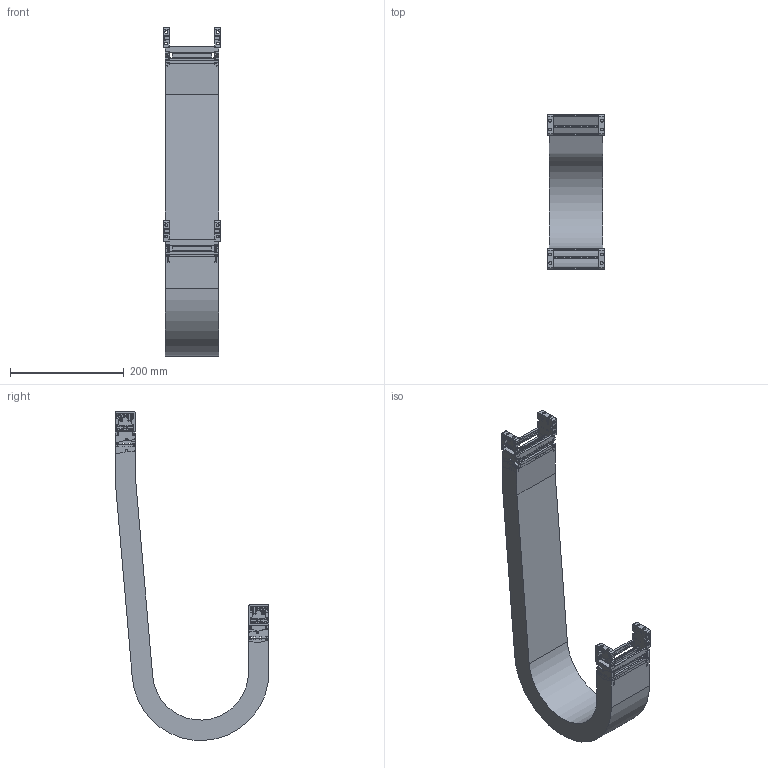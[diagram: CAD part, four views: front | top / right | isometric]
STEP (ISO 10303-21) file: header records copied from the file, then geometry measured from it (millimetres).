
FILE_DESCRIPTION((''),'2;1');
FILE_NAME('KST-25080-100_ASM','2017-12-05T',('KUNI004K'),(''),'PRO/ENGINEER BY PARAMETRIC TECHNOLOGY CORPORATION, 2015200','PRO/ENGINEER BY PARAMETRIC TECHNOLOGY CORPORATION, 2015200','');
FILE_SCHEMA(('AUTOMOTIVE_DESIGN { 1 0 10303 214 1 1 1 1 }'));
Length unit declared in the file: millimetre
Products named in the file (13): 25FBR; 25FBL; 25080C; KST25FBR_W080_ASM; 25100R; 25100L; 25080H; KST25080-100_1_ASM; KST25080_R100_BODY; 25MBR; 25MBL; KST25MBR_W080_ASM; KST-25080-100_ASM
Assembly tree (19 placements, depth 3):
  KST-25080-100_ASM
    KST25FBR_W080_ASM
      25FBR
      25FBL
      25080C  x2
    KST25080-100_1_ASM  x2
      25100R
      25100L
      25080C
      25080H
    KST25080_R100_BODY
    KST25MBR_W080_ASM
      25MBR
      25MBL
      25080C  x2
Bounding box: 100 x 271 x 579.19 mm (x, y, z)
Volume: 1185943.3 mm3; surface area: 575058.7 mm2
Topology: 21 solids, 21 shells, 2660 faces, 7418 edges, 4816 vertices
Faces by surface type: plane 1394, cylinder 962, bspline 208, sphere 64, torus 32
Entity records: 69852 total; most frequent: CARTESIAN_POINT 14454, ORIENTED_EDGE 7540, DIRECTION 6636, PRESENTATION_STYLE_ASSIGNMENT 5094, STYLED_ITEM 5094, CURVE_STYLE 3770, EDGE_CURVE 3770, VECTOR 2510
